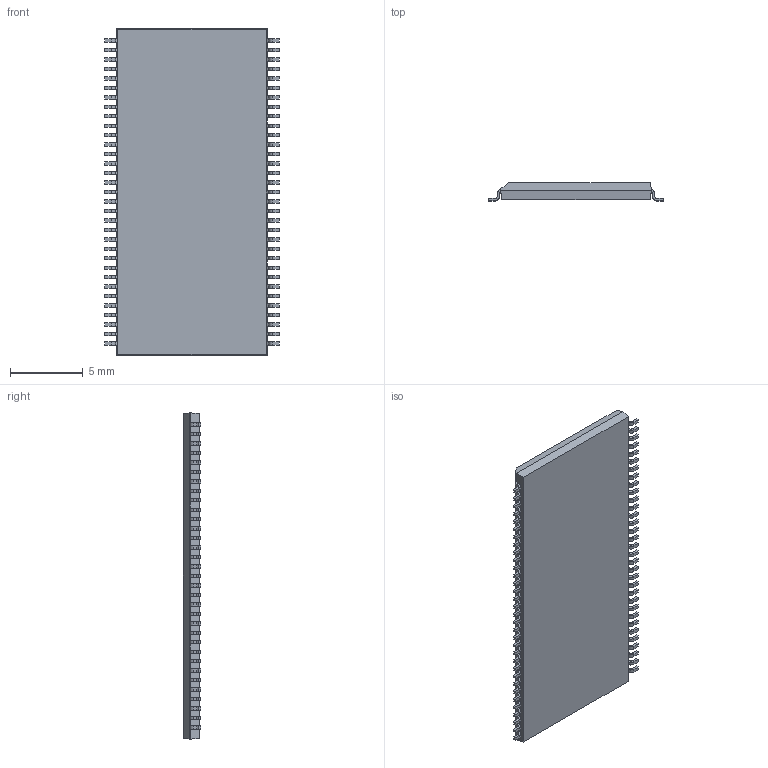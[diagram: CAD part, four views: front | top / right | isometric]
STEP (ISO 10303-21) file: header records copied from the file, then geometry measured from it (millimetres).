
FILE_DESCRIPTION (( 'STEP AP214' ), '1' );
FILE_NAME ('TSOP65P1176X120-66_MS-024.FC.STEP', '2014-12-19T14:14:08', ( 'Tester2' ), ( '' ), 'SwSTEP 2.0', 'SolidWorks 2012', '' );
FILE_SCHEMA (( 'AUTOMOTIVE_DESIGN' ));
Length unit declared in the file: millimetre
Products named in the file (1): TSOP65P1176X120-66_MS-024.FC
Bounding box: 11.96 x 1.2 x 22.42 mm (x, y, z)
Volume: 253.4 mm3; surface area: 583.2 mm2
Topology: 1 solids, 1 shells, 740 faces, 2207 edges, 1470 vertices
Faces by surface type: plane 474, cylinder 266
Entity records: 32904 total; most frequent: CARTESIAN_POINT 4418, ORIENTED_EDGE 4414, DIRECTION 4221, EDGE_CURVE 2207, LINE 1675, VECTOR 1675, VERTEX_POINT 1470, AXIS2_PLACEMENT_3D 1273
